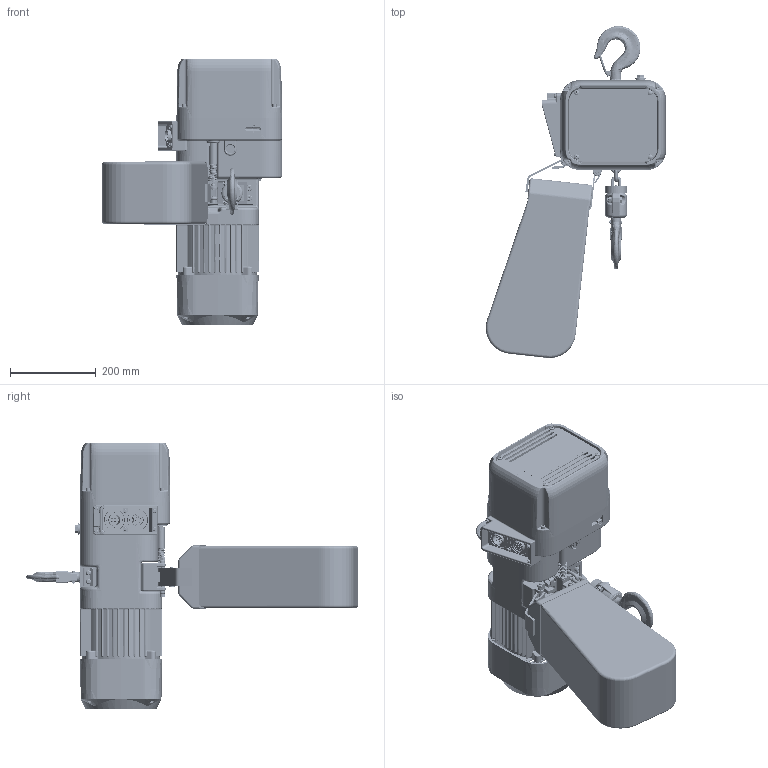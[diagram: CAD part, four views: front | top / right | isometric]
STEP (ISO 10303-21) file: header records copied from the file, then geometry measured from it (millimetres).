
FILE_DESCRIPTION (( 'STEP AP214' ), '1' );
FILE_NAME ('NER2010SD.STEP', '2026-08-03T20:30:50', ( '' ), ( '' ), 'SwSTEP 2.0', 'SolidWorks 2026', '' );
FILE_SCHEMA (( 'AUTOMOTIVE_DESIGN' ));
Length unit declared in the file: millimetre
Products named in the file (52): ER2CS9357; ER2DS9107_ER2DS9107; Spring Lock Washer for M4; ER1BS9135; J1WS011-20080_Rectangular section spring washer BS 4464 - 16 (Type B); single coil rectangular section spring washer_bsi_9012711; E3S111003; MS561010; ER2DS9015; ER2DI9104_ER2DI9104; NER2010SD; ES857005S; BK2D2; ER2DS2015; socket head cap screw_am_B18.3.1M - 6 x 1.0 x 12 Hex SHCS -- 12CHX; socket head cap screw_am_9091274; ER2DS1001; ER2CS9511; socket head cap screw_am_9091286; ER2DS5405; ER2DS1011; E3S112003; J1AP24001212; ER2DS9337; ES855003; ER2BHM10I9A5; ER2DS9101; ER2CI2564; ER2DS1002; ER2DS9338; ES558003; ER2CS9123; ER2DS9103; ER2DS9105; ES127005S; ER2CS9186; ER2DS9011; ER2DS9331; ER2CS9121; ER2DI9185_ER2DI9185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
Assembly tree (90 placements, depth 4):
  NER2010SD
    ER2DI2104
      ER2DI9104_ER2DI9104
      ER2DI9185_ER2DI9185
      J1AP24001212  x4
        Spring Lock Washer for M4
        pan cross head_am_B18.6.7M - M6 x 1.0 x 16 Type I Cross Recessed PHMS --16N
    ER2DS9101
    ER2DS9105
    ER2DS9103
    ER2DS9107_ER2DS9107
    ER2DS1011
      ER2DS2015
        ER2DS9015  x2
        J1BY9-0803022_B18.2.3.1M - Hex cap screw, M8 x 1.25 x 30 --30C  x2
        J1WS011-20080_Rectangular section spring washer BS 4464 - 16 (Type B)  x2
        J1NA001-20080_B18.2.4.1M - Hex nut, Style 1,  M8 x 1.25 --D-C  x2
      ER2DS9011
      ER2DS1002
    ER2DS9331
    ER2DS9337
    ER2DS9338
    ER2CS9357
    ER2CS9121  x2
    ER2CS9123
    socket head cap screw_am_B18.3.1M - 6 x 1.0 x 12 Hex SHCS -- 12CHX
    ER2CS9186
    LCER2010NP_8
      LCER2010NP  x8
    ER1DS9053
    single coil rectangular section spring washer_bsi_9012711  x4
    socket head cap screw_am_9091274  x4
    ES127005S
    ER1BS9135
    E3S112003  x2
    E3S111003  x2
    J1BG10604024_J1BG10604024  x4
    ER2DI4511
      ER2CS9511
      MS561010  x6
      ER2CS2523
      ER2CI2564
      ES558003  x8
    ER2BHM10I9A5
    BK2D2
      ER2DS5405
      socket head cap screw_am_9091286
      ES857005S
      ER414001_B18.3.1M - 8 x 1.25 x 40 Hex SHCS -- 28CHX
      ES855003
    ER2DS1001
      ER2DS9001
      ER2DS1002
Bounding box: 421.35 x 775.91 x 624.07 mm (x, y, z)
Volume: 19238905.6 mm3; surface area: 2135879.6 mm2
Topology: 100 solids, 105 shells, 5871 faces, 15448 edges, 9652 vertices
Faces by surface type: cylinder 2267, plane 1877, bspline 605, torus 561, cone 313, sphere 248
Entity records: 199471 total; most frequent: CARTESIAN_POINT 76121, ORIENTED_EDGE 25130, DIRECTION 24783, EDGE_CURVE 12565, AXIS2_PLACEMENT_3D 9381, VERTEX_POINT 8031, VECTOR 6021, LINE 6021
